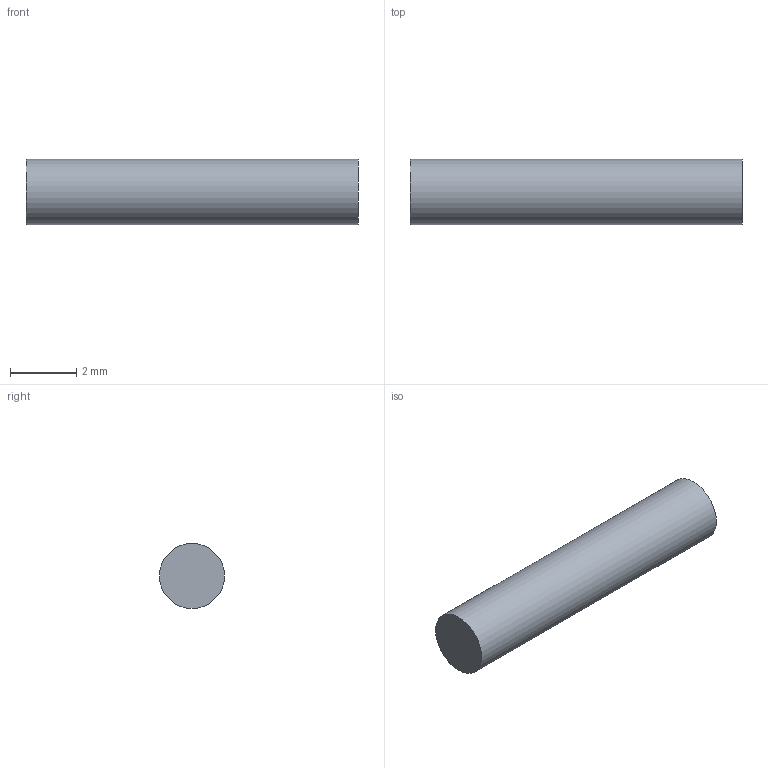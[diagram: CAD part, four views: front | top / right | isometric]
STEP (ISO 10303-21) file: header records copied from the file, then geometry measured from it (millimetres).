
FILE_DESCRIPTION(('Open CASCADE Model'),'2;1');
FILE_NAME('Open CASCADE Shape Model','2026-10-20T14:25:35',('Author'),( 'Open CASCADE'),'Open CASCADE STEP processor 7.8','Open CASCADE 7.8' ,'Unknown');
FILE_SCHEMA(('AUTOMOTIVE_DESIGN { 1 0 10303 214 1 1 1 1 }'));
Length unit declared in the file: millimetre
Products named in the file (1): Open CASCADE STEP translator 7.8 2
Bounding box: 10 x 1.96 x 1.96 mm (x, y, z)
Volume: 30.2 mm3; surface area: 67.6 mm2
Topology: 1 solids, 1 shells, 3 faces, 3 edges, 2 vertices
Faces by surface type: plane 2, cylinder 1
Full cylindrical faces by diameter (mm): 1.96 x1
Entity records: 108 total; most frequent: DIRECTION 19, CARTESIAN_POINT 15, AXIS2_PLACEMENT_3D 6, ORIENTED_EDGE 6, PCURVE 6, DEFINITIONAL_REPRESENTATION 6, LINE 5, VECTOR 5
